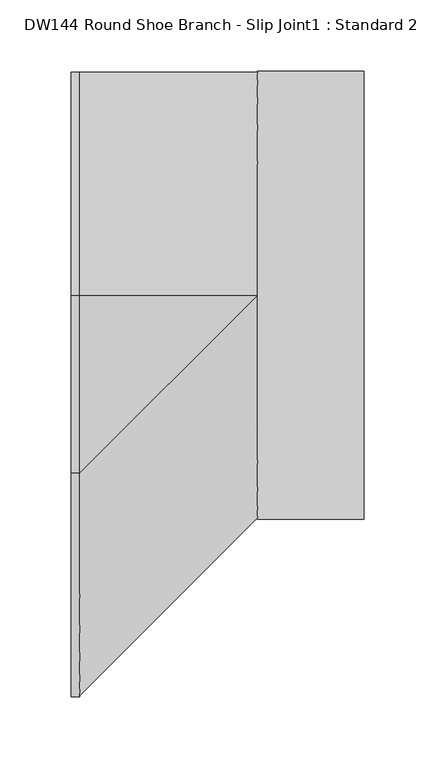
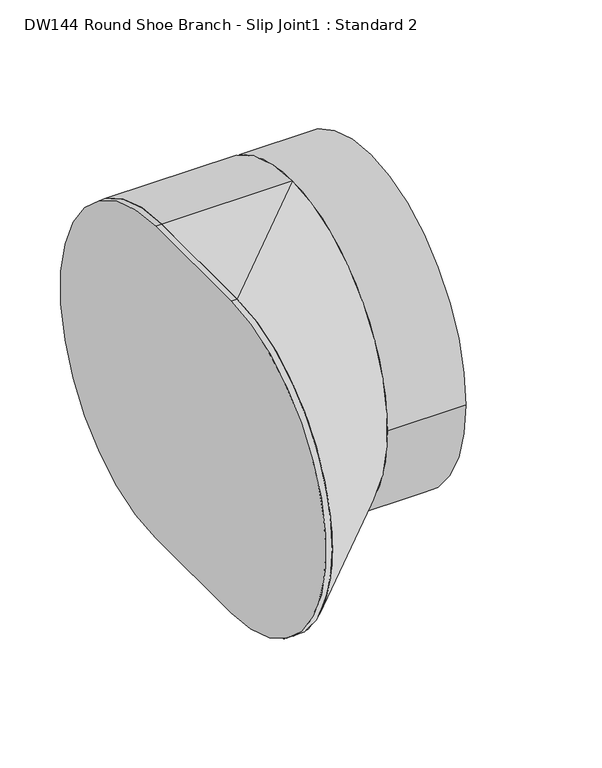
"""IFC4 building model written with IfcOpenShell, lengths in millimetres: duct fitting geometry, DW144 Round Shoe Branch - Slip Joint1 : Standard 2."""

from ifc_helpers import new_model, si_unit, point, frame, frame_2d, origin, origin_2d, place, context, project, spatial, polyline, circle_curve, trimmed, segment, composite_curve, outline, extrude, source, transform, mapped, element, save
from ifc_brep_helpers import plane_surface, cylinder_surface, extruded_surface, advanced_brep


def dw144_round_shoe_branch_slip_joint1_standard_2_809a1802(model_context):
    return source(origin(), model_context, "Body", "SolidModel", [
        extrude(outline(composite_curve([segment(trimmed(circle_curve(origin_2d(), 157.5), [point((-157.5, 0.0))], [point((157.5, 0.0))], False, "CARTESIAN"), True, "CONTINUOUS"), segment(trimmed(circle_curve(origin_2d(), 157.5), [point((157.5, 0.0))], [point((-157.5, 0.0))], False, "CARTESIAN"), True, "CONTINUOUS")], self_intersect=False)), frame((125.0, 0.0, 0.0), z_axis=(1.0, 0.0, 0.0), x_axis=(0.0, 1.0, 0.0)), (0.0, 0.0, 1.0), 75.0),
        advanced_brep(
        [(125.0, 0.0, -157.5), (125.0, 0.0, 157.5), (0.0, 0.0, -157.5), (0.0, -125.0, -157.5), (0.0, -125.0, 157.5), (0.0, 0.0, 157.5)],
        [
            (0, 1, circle_curve(frame((125.0, 0.0, 0.0), z_axis=(1.0, 0.0, 0.0), x_axis=(0.0, 1.0, 0.0)), 157.5)),
            (1, 0, circle_curve(frame((125.0, 0.0, 0.0), z_axis=(1.0, 0.0, 0.0), x_axis=(0.0, 1.0, 0.0)), 157.5)),
            (2, 3),
            (3, 4, circle_curve(frame((0.0, -125.0, 0.0), z_axis=(-1.0, 0.0, 0.0), x_axis=(0.0, 1.0, 0.0)), 157.5)),
            (4, 5),
            (5, 2, circle_curve(frame((0.0, 0.0, 0.0), z_axis=(-1.0, 0.0, 0.0), x_axis=(0.0, 1.0, 0.0)), 157.5)),
            (5, 1),
            (0, 2),
            (4, 1),
            (3, 0),
        ],
        [
            plane_surface(frame((125.0, 0.0, 0.0), z_axis=(1.0, 0.0, 0.0), x_axis=(0.0, 1.0, 0.0))),
            plane_surface(frame((0.0, -62.5, 0.0), z_axis=(-1.0, 0.0, 0.0), x_axis=(0.0, 1.0, 0.0))),
            cylinder_surface(frame((0.0, 0.0, 0.0), z_axis=(1.0, 0.0, 0.0), x_axis=(0.0, 1.0, 0.0)), 157.5),
            plane_surface(frame((0.0, -62.5, 157.5), z_axis=(0.0, 0.0, 1.0), x_axis=(0.0, -1.0, 0.0))),
            extruded_surface(trimmed(circle_curve(frame((0.0, -125.0, 0.0), z_axis=(1.0, 0.0, 0.0), x_axis=(0.0, 1.0, 0.0)), 157.5), [point((0.0, -125.0, 157.5))], [point((0.0, -125.0, -157.5))], True, "CARTESIAN"), (125.0, 125.0, 0.0), 176.7766952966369),
            plane_surface(frame((0.0, -62.5, -157.5), z_axis=(0.0, 0.0, -1.0), x_axis=(0.0, 1.0, 0.0))),
        ],
        [
            (0, [[1, 2]]),
            (1, [[3, 4, 5, 6]]),
            (2, [[-6, 7, -1, 8]]),
            (3, [[-5, 9, -7]]),
            (4, [[-4, 10, -2, -9]]),
            (5, [[-3, -8, -10]]),
        ],
    ),
        extrude(outline(composite_curve([segment(polyline([(0.0, -157.5), (-125.0, -157.5)]), True, "CONTINUOUS"), segment(trimmed(circle_curve(frame_2d((-125.0, 0.0)), 157.5), [point((-125.0, -157.5))], [point((-125.0, 157.5))], False, "CARTESIAN"), True, "CONTINUOUS"), segment(polyline([(-125.0, 157.5), (0.0, 157.5)]), True, "CONTINUOUS"), segment(trimmed(circle_curve(origin_2d(), 157.5), [point((0.0, 157.5))], [point((0.0, -157.5))], False, "CARTESIAN"), True, "CONTINUOUS")], self_intersect=False)), frame((-6.096, 0.0, 0.0), z_axis=(1.0, 0.0, 0.0), x_axis=(0.0, 1.0, 0.0)), (0.0, 0.0, 1.0), 6.096),
    ])


if __name__ == "__main__":
    model = new_model("IFC4")
    model_context = context("Model", 3, world=origin())
    ifc_project = project(units=[si_unit("LENGTHUNIT", "METRE", prefix="MILLI")], contexts=[model_context])
    site = spatial("IfcSite", under=ifc_project)
    building = spatial("IfcBuilding", under=site)
    placement = place(None, origin())
    dw144_round_shoe_branch_slip_joint1_standard_2_shape = dw144_round_shoe_branch_slip_joint1_standard_2_809a1802(model_context)
    element("IfcDuctFitting", 1, ObjectType="DW144 Round Shoe Branch - Slip Joint1 : Standard 2", at=placement, inside=building, context=model_context, shape_type="MappedRepresentation", body=[
        mapped(dw144_round_shoe_branch_slip_joint1_standard_2_shape, transform((0.0, 0.0, 0.0), x_axis=(1.0, 0.0, 0.0), y_axis=(0.0, 1.0, 0.0), z_axis=(0.0, 0.0, 1.0))),
    ])
    save(model, "model.ifc")
